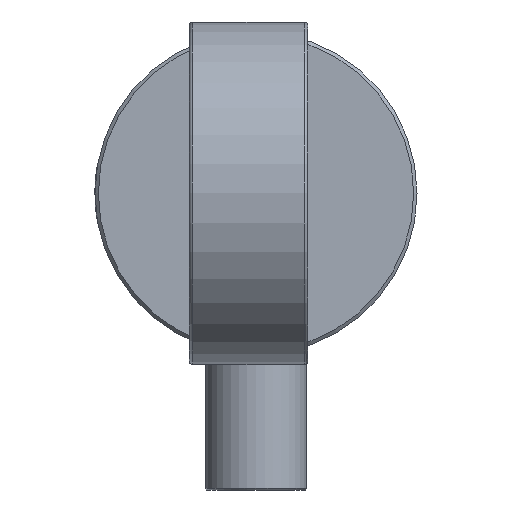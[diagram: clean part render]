
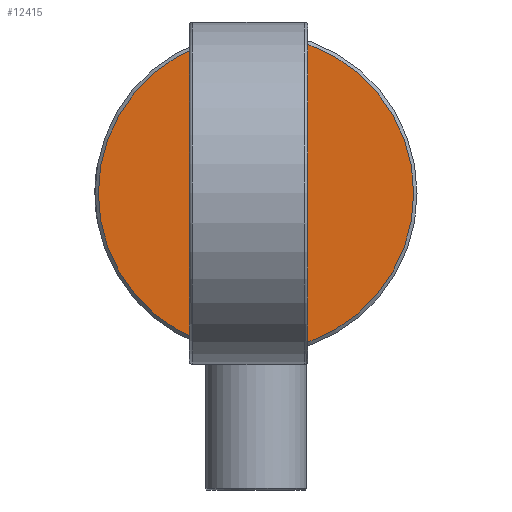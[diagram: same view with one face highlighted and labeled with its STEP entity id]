
A CAD part, front view. The second image highlights one B-rep face of the part: STEP entity #12415.
In plain terms, the highlighted planar face has unit normal (0, -1, 0).
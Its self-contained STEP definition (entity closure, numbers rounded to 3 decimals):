
#1409=PLANE('',#13328);
#1688=FACE_OUTER_BOUND('',#2436,.T.);
#2436=EDGE_LOOP('',(#8601));
#5031=CIRCLE('',#13327,46.5);
#5299=VERTEX_POINT('',#16450);
#6599=EDGE_CURVE('',#5299,#5299,#5031,.T.);
#8601=ORIENTED_EDGE('',*,*,#6599,.F.);
#12415=ADVANCED_FACE('',(#1688),#1409,.T.);
#13327=AXIS2_PLACEMENT_3D('',#16452,#14168,#14169);
#13328=AXIS2_PLACEMENT_3D('',#16453,#14170,#14171);
#14168=DIRECTION('center_axis',(0.,1.,0.));
#14169=DIRECTION('ref_axis',(0.,0.,-1.));
#14170=DIRECTION('center_axis',(0.,-1.,0.));
#14171=DIRECTION('ref_axis',(0.,0.,-1.));
#16450=CARTESIAN_POINT('',(0.,0.,46.5));
#16452=CARTESIAN_POINT('Origin',(0.,0.,0.));
#16453=CARTESIAN_POINT('Origin',(0.,0.,47.5));
